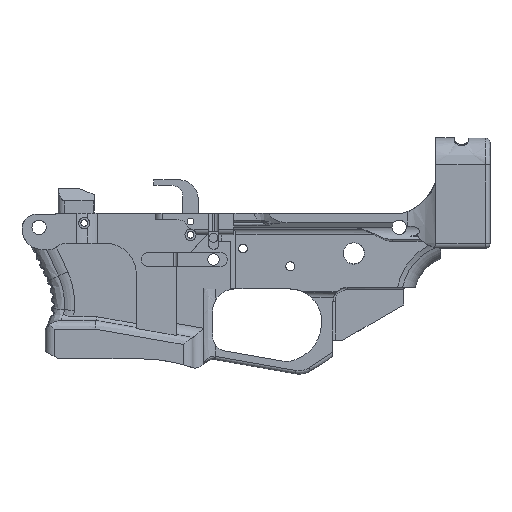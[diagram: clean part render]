
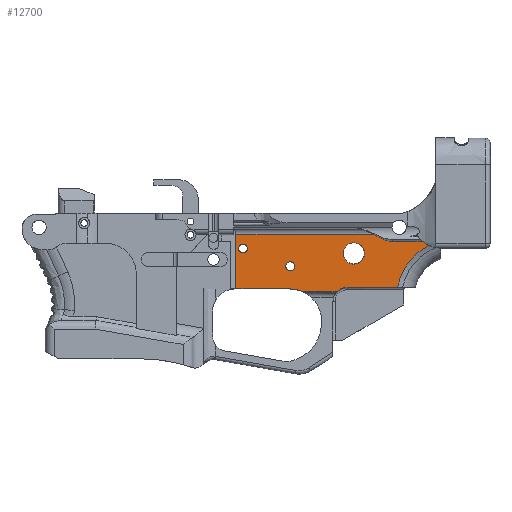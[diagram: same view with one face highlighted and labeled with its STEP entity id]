
A CAD part, left-side view. The second image highlights one B-rep face of the part: STEP entity #12700.
In plain terms, the highlighted planar face has unit normal (-1, 0, 0).
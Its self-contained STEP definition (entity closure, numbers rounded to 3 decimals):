
#61=FACE_BOUND('',#1673,.T.);
#62=FACE_BOUND('',#1674,.T.);
#63=FACE_BOUND('',#1675,.T.);
#300=PLANE('',#13490);
#545=CIRCLE('',#13434,10.575);
#546=CIRCLE('',#13439,12.);
#565=CIRCLE('',#13478,6.35);
#568=CIRCLE('',#13483,14.275);
#574=CIRCLE('',#13491,4.763);
#575=CIRCLE('',#13492,1.981);
#576=CIRCLE('',#13493,1.981);
#965=FACE_OUTER_BOUND('',#1672,.T.);
#1672=EDGE_LOOP('',(#8801,#8802,#8803,#8804,#8805,#8806,#8807,#8808,#8809,
#8810,#8811,#8812));
#1673=EDGE_LOOP('',(#8813));
#1674=EDGE_LOOP('',(#8814));
#1675=EDGE_LOOP('',(#8815));
#2546=B_SPLINE_CURVE_WITH_KNOTS('',3,(#21768,#21769,#21770,#21771,#21772,
#21773),.UNSPECIFIED.,.F.,.F.,(4,2,4),(3.698,3.969,
4.039),.UNSPECIFIED.);
#2562=B_SPLINE_CURVE_WITH_KNOTS('',3,(#22093,#22094,#22095,#22096,#22097,
#22098,#22099,#22100,#22101,#22102,#22103,#22104,#22105,#22106,#22107,#22108),
 .UNSPECIFIED.,.F.,.F.,(4,3,3,3,3,4),(-2.697,-1.927,
-1.542,-0.772,-0.387,-0.246),
 .UNSPECIFIED.);
#3275=LINE('',#21703,#4107);
#3287=LINE('',#21742,#4119);
#3288=LINE('',#21799,#4120);
#3348=LINE('',#22889,#4180);
#3351=LINE('',#22923,#4183);
#3354=LINE('',#23012,#4186);
#4107=VECTOR('',#14514,10.);
#4119=VECTOR('',#14540,10.);
#4120=VECTOR('',#14543,10.);
#4180=VECTOR('',#14693,10.);
#4183=VECTOR('',#14706,10.);
#4186=VECTOR('',#14723,10.);
#5037=VERTEX_POINT('',#21701);
#5038=VERTEX_POINT('',#21702);
#5052=VERTEX_POINT('',#21741);
#5053=VERTEX_POINT('',#21767);
#5056=VERTEX_POINT('',#21797);
#5057=VERTEX_POINT('',#21798);
#5065=VERTEX_POINT('',#21834);
#5081=VERTEX_POINT('',#22092);
#5192=VERTEX_POINT('',#22887);
#5193=VERTEX_POINT('',#22891);
#5194=VERTEX_POINT('',#22892);
#5200=VERTEX_POINT('',#22922);
#5218=VERTEX_POINT('',#23080);
#5219=VERTEX_POINT('',#23082);
#5220=VERTEX_POINT('',#23084);
#6425=EDGE_CURVE('',#5037,#5038,#3275,.T.);
#6442=EDGE_CURVE('',#5038,#5052,#3287,.T.);
#6444=EDGE_CURVE('',#5053,#5052,#2546,.T.);
#6448=EDGE_CURVE('',#5056,#5057,#3288,.T.);
#6453=EDGE_CURVE('',#5057,#5053,#545,.T.);
#6460=EDGE_CURVE('',#5056,#5065,#546,.T.);
#6480=EDGE_CURVE('',#5065,#5081,#2562,.F.);
#6610=EDGE_CURVE('',#5037,#5192,#3348,.T.);
#6611=EDGE_CURVE('',#5193,#5194,#565,.T.);
#6618=EDGE_CURVE('',#5194,#5200,#3351,.T.);
#6621=EDGE_CURVE('',#5192,#5200,#568,.T.);
#6631=EDGE_CURVE('',#5081,#5193,#3354,.T.);
#6642=EDGE_CURVE('',#5218,#5218,#574,.T.);
#6643=EDGE_CURVE('',#5219,#5219,#575,.T.);
#6644=EDGE_CURVE('',#5220,#5220,#576,.T.);
#8801=ORIENTED_EDGE('',*,*,#6425,.F.);
#8802=ORIENTED_EDGE('',*,*,#6610,.T.);
#8803=ORIENTED_EDGE('',*,*,#6621,.T.);
#8804=ORIENTED_EDGE('',*,*,#6618,.F.);
#8805=ORIENTED_EDGE('',*,*,#6611,.F.);
#8806=ORIENTED_EDGE('',*,*,#6631,.F.);
#8807=ORIENTED_EDGE('',*,*,#6480,.F.);
#8808=ORIENTED_EDGE('',*,*,#6460,.F.);
#8809=ORIENTED_EDGE('',*,*,#6448,.T.);
#8810=ORIENTED_EDGE('',*,*,#6453,.T.);
#8811=ORIENTED_EDGE('',*,*,#6444,.T.);
#8812=ORIENTED_EDGE('',*,*,#6442,.F.);
#8813=ORIENTED_EDGE('',*,*,#6642,.F.);
#8814=ORIENTED_EDGE('',*,*,#6643,.F.);
#8815=ORIENTED_EDGE('',*,*,#6644,.F.);
#12700=ADVANCED_FACE('',(#965,#61,#62,#63),#300,.T.);
#13434=AXIS2_PLACEMENT_3D('',#21808,#14551,#14552);
#13439=AXIS2_PLACEMENT_3D('',#21835,#14563,#14564);
#13478=AXIS2_PLACEMENT_3D('',#22893,#14696,#14697);
#13483=AXIS2_PLACEMENT_3D('',#22935,#14710,#14711);
#13490=AXIS2_PLACEMENT_3D('',#23079,#14732,#14733);
#13491=AXIS2_PLACEMENT_3D('',#23081,#14734,#14735);
#13492=AXIS2_PLACEMENT_3D('',#23083,#14736,#14737);
#13493=AXIS2_PLACEMENT_3D('',#23085,#14738,#14739);
#14514=DIRECTION('',(0.,0.,1.));
#14540=DIRECTION('',(0.,-1.,0.));
#14543=DIRECTION('',(0.,1.,0.));
#14551=DIRECTION('center_axis',(1.,0.,
0.));
#14552=DIRECTION('ref_axis',(0.,0.995,-0.105));
#14563=DIRECTION('center_axis',(-1.,0.,
0.));
#14564=DIRECTION('ref_axis',(0.,1.,0.));
#14693=DIRECTION('',(0.,-1.,0.));
#14696=DIRECTION('center_axis',(-1.,0.,
0.));
#14697=DIRECTION('ref_axis',(0.,-0.707,0.707));
#14706=DIRECTION('',(0.,1.,0.));
#14710=DIRECTION('center_axis',(1.,0.,
0.));
#14711=DIRECTION('ref_axis',(0.,0.,
-1.));
#14723=DIRECTION('',(0.,1.,0.));
#14732=DIRECTION('center_axis',(-1.,0.,
0.));
#14733=DIRECTION('ref_axis',(0.,0.,1.));
#14734=DIRECTION('center_axis',(-1.,0.,
0.));
#14735=DIRECTION('ref_axis',(0.,-0.707,0.707));
#14736=DIRECTION('center_axis',(-1.,0.,
0.));
#14737=DIRECTION('ref_axis',(0.,0.,
-1.));
#14738=DIRECTION('center_axis',(-1.,0.,
0.));
#14739=DIRECTION('ref_axis',(0.,0.,
-1.));
#21701=CARTESIAN_POINT('',(10.265,-15.204,-12.602));
#21702=CARTESIAN_POINT('',(10.266,-15.204,11.979));
#21703=CARTESIAN_POINT('',(10.266,-15.204,6.48));
#21741=CARTESIAN_POINT('',(10.293,-77.135,11.979));
#21742=CARTESIAN_POINT('',(10.263,-6.732,11.979));
#21767=CARTESIAN_POINT('',(10.295,-80.125,10.355));
#21768=CARTESIAN_POINT('Ctrl Pts',(10.295,-80.125,10.355));
#21769=CARTESIAN_POINT('Ctrl Pts',(10.294,-79.359,10.827));
#21770=CARTESIAN_POINT('Ctrl Pts',(10.294,-78.571,11.267));
#21771=CARTESIAN_POINT('Ctrl Pts',(10.294,-77.554,11.777));
#21772=CARTESIAN_POINT('Ctrl Pts',(10.293,-77.345,11.879));
#21773=CARTESIAN_POINT('Ctrl Pts',(10.293,-77.135,11.979));
#21797=CARTESIAN_POINT('',(10.303,-99.398,8.785));
#21798=CARTESIAN_POINT('',(10.297,-85.666,8.787));
#21799=CARTESIAN_POINT('',(10.277,-40.97,8.793));
#21808=CARTESIAN_POINT('Origin',(10.297,-85.667,19.362));
#21834=CARTESIAN_POINT('',(10.304,-102.011,7.019));
#21835=CARTESIAN_POINT('Origin',(10.307,-107.365,17.759));
#22092=CARTESIAN_POINT('',(10.297,-87.949,-11.94));
#22093=CARTESIAN_POINT('Ctrl Pts',(10.297,-87.949,-11.94));
#22094=CARTESIAN_POINT('Ctrl Pts',(10.297,-88.408,-9.43));
#22095=CARTESIAN_POINT('Ctrl Pts',(10.298,-89.242,-6.958));
#22096=CARTESIAN_POINT('Ctrl Pts',(10.298,-90.394,-4.675));
#22097=CARTESIAN_POINT('Ctrl Pts',(10.299,-90.971,-3.534));
#22098=CARTESIAN_POINT('Ctrl Pts',(10.299,-91.627,-2.44));
#22099=CARTESIAN_POINT('Ctrl Pts',(10.299,-92.361,-1.395));
#22100=CARTESIAN_POINT('Ctrl Pts',(10.3,-93.831,0.696));
#22101=CARTESIAN_POINT('Ctrl Pts',(10.301,-95.615,2.592));
#22102=CARTESIAN_POINT('Ctrl Pts',(10.302,-97.615,4.182));
#22103=CARTESIAN_POINT('Ctrl Pts',(10.302,-98.616,4.978));
#22104=CARTESIAN_POINT('Ctrl Pts',(10.303,-99.67,5.697));
#22105=CARTESIAN_POINT('Ctrl Pts',(10.303,-100.777,6.341));
#22106=CARTESIAN_POINT('Ctrl Pts',(10.304,-101.181,6.577));
#22107=CARTESIAN_POINT('Ctrl Pts',(10.304,-101.593,6.803));
#22108=CARTESIAN_POINT('Ctrl Pts',(10.304,-102.01,7.018));
#22887=CARTESIAN_POINT('',(10.276,-39.405,-12.602));
#22889=CARTESIAN_POINT('',(10.259,-0.52,-12.602));
#22891=CARTESIAN_POINT('',(10.287,-65.212,-11.94));
#22892=CARTESIAN_POINT('',(10.285,-60.716,-13.805));
#22893=CARTESIAN_POINT('Origin',(10.287,-65.212,-18.29));
#22922=CARTESIAN_POINT('',(10.278,-45.142,-13.805));
#22923=CARTESIAN_POINT('',(10.243,36.339,-13.805));
#22935=CARTESIAN_POINT('Origin',(10.275,-39.405,-26.877));
#23012=CARTESIAN_POINT('',(10.243,36.339,-11.94));
#23079=CARTESIAN_POINT('Origin',(10.26,-0.604,21.674));
#23080=CARTESIAN_POINT('',(10.287,-64.879,-0.016));
#23081=CARTESIAN_POINT('Origin',(10.289,-68.247,3.351));
#23082=CARTESIAN_POINT('',(10.276,-39.659,-0.435));
#23083=CARTESIAN_POINT('Origin',(10.276,-39.659,-2.417));
#23084=CARTESIAN_POINT('',(10.267,-18.384,7.54));
#23085=CARTESIAN_POINT('Origin',(10.267,-18.384,5.559));
